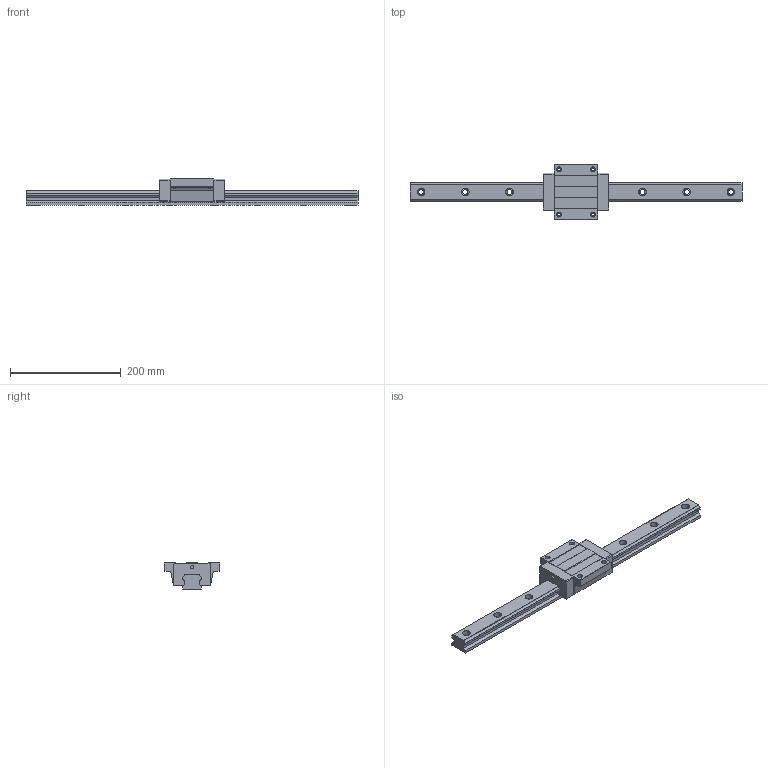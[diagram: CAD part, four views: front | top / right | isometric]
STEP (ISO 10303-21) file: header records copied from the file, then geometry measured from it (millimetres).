
FILE_DESCRIPTION (( 'STEP AP203' ), '1' );
FILE_NAME ('TRH35FN-ZN-§ï.STEP', '2023-08-29T08:31:21', ( '' ), ( '' ), 'SwSTEP 2.0', 'SolidWorks 2022', '' );
FILE_SCHEMA (( 'CONFIG_CONTROL_DESIGN' ));
Length unit declared in the file: millimetre
Products named in the file (1): TRH35FN-ZN-改
Bounding box: 600 x 100 x 48 mm (x, y, z)
Volume: 736917.8 mm3; surface area: 119408.6 mm2
Topology: 1 solids, 1 shells, 188 faces, 532 edges, 348 vertices
Faces by surface type: plane 98, cylinder 90
Entity records: 6509 total; most frequent: CARTESIAN_POINT 1329, DIRECTION 1086, ORIENTED_EDGE 1064, EDGE_CURVE 532, AXIS2_PLACEMENT_3D 373, VERTEX_POINT 348, LINE 340, VECTOR 340
